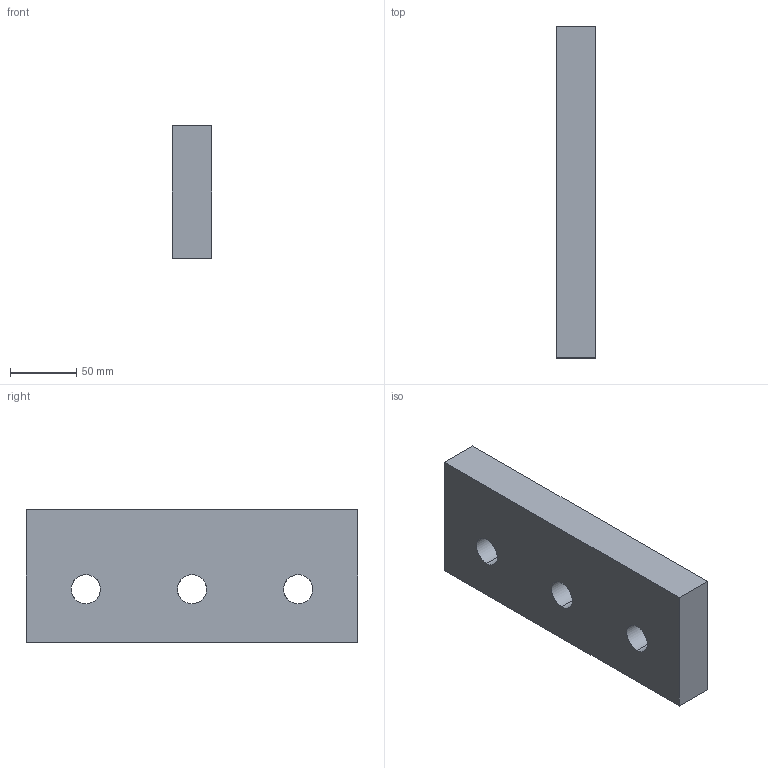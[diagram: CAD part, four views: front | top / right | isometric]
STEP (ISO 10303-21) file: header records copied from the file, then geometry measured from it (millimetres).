
FILE_DESCRIPTION(('CATIA V5 STEP Exchange'),'2;1');
FILE_NAME('C:\Users\Raffaele\Desktop\3D X SITO CF\A612\A611-100-2501\A612-100-2501.stp','2019-07-12T12:56:43+00:00',('none'),('none'),'CATIA Version 5 Release 20 GA (IN-10)','CATIA V5 STEP AP203','none');
FILE_SCHEMA(('CONFIG_CONTROL_DESIGN'));
Length unit declared in the file: millimetre
Products named in the file (1): A612-100-2501
Bounding box: 30 x 250 x 100 mm (x, y, z)
Volume: 715788.1 mm3; surface area: 74939.6 mm2
Topology: 1 solids, 1 shells, 12 faces, 42 edges, 32 vertices
Faces by surface type: plane 6, cylinder 6
Entity records: 660 total; most frequent: CARTESIAN_POINT 255, ORIENTED_EDGE 84, DIRECTION 54, EDGE_CURVE 42, VERTEX_POINT 32, AXIS2_PLACEMENT_3D 25, VECTOR 18, EDGE_LOOP 18
